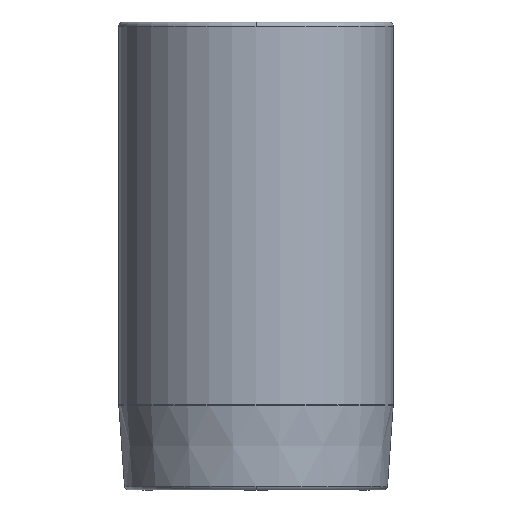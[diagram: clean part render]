
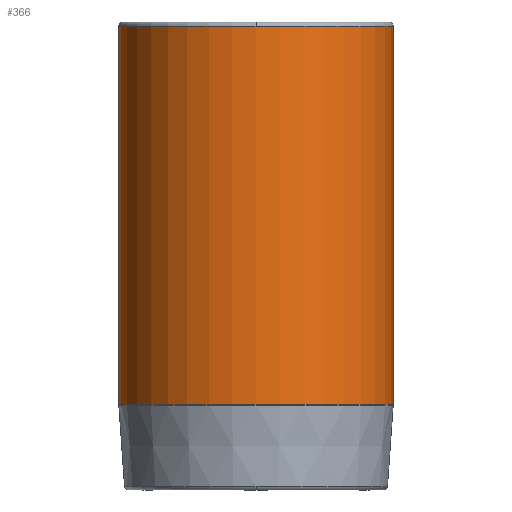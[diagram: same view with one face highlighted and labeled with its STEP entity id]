
A CAD part, front view. The second image highlights one B-rep face of the part: STEP entity #366.
In plain terms, the highlighted cylindrical face has radius 16.125 mm (diameter 32.25 mm), a partial arc.
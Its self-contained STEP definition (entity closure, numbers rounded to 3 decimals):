
#271=CARTESIAN_POINT('',(0.0,-16.125,27.5));
#272=VERTEX_POINT('',#271);
#298=CARTESIAN_POINT('',(-16.125,0.,27.5));
#299=VERTEX_POINT('',#298);
#307=CARTESIAN_POINT('',(0.0,0.,27.5));
#308=DIRECTION('',(0.0,0.0,1.0));
#309=DIRECTION('',(1.0,0.0,0.0));
#310=AXIS2_PLACEMENT_3D('',#307,#308,#309);
#311=CIRCLE('',#310,16.125);
#312=EDGE_CURVE('',#299,#272,#311,.T.);
#317=CARTESIAN_POINT('',(0.0,0.,5.267));
#318=DIRECTION('',(0.0,0.,1.0));
#319=DIRECTION('',(1.0,0.0,0.0));
#320=AXIS2_PLACEMENT_3D('',#317,#318,#319);
#321=CYLINDRICAL_SURFACE('',#320,16.125);
#322=CARTESIAN_POINT('',(16.125,0.,27.5));
#323=VERTEX_POINT('',#322);
#324=CARTESIAN_POINT('',(16.125,0.,-16.965));
#325=VERTEX_POINT('',#324);
#326=CARTESIAN_POINT('',(16.125,0.,27.5));
#327=DIRECTION('',(0.0,0.0,-1.0));
#328=VECTOR('',#327,44.465);
#329=LINE('',#326,#328);
#330=EDGE_CURVE('',#323,#325,#329,.T.);
#331=ORIENTED_EDGE('',*,*,#330,.F.);
#332=CARTESIAN_POINT('',(0.0,0.,27.5));
#333=DIRECTION('',(0.0,0.0,1.0));
#334=DIRECTION('',(1.0,0.0,0.0));
#335=AXIS2_PLACEMENT_3D('',#332,#333,#334);
#336=CIRCLE('',#335,16.125);
#337=EDGE_CURVE('',#272,#323,#336,.T.);
#338=ORIENTED_EDGE('',*,*,#337,.F.);
#339=ORIENTED_EDGE('',*,*,#312,.F.);
#340=CARTESIAN_POINT('',(-16.125,0.,-16.965));
#341=VERTEX_POINT('',#340);
#342=CARTESIAN_POINT('',(-16.125,0.,27.5));
#343=DIRECTION('',(0.0,0.0,-1.0));
#344=VECTOR('',#343,44.465);
#345=LINE('',#342,#344);
#346=EDGE_CURVE('',#299,#341,#345,.T.);
#347=ORIENTED_EDGE('',*,*,#346,.T.);
#348=CARTESIAN_POINT('',(0.0,-16.125,-16.965));
#349=VERTEX_POINT('',#348);
#350=CARTESIAN_POINT('',(0.0,0.,-16.965));
#351=DIRECTION('',(0.0,0.0,1.0));
#352=DIRECTION('',(1.0,0.0,0.0));
#353=AXIS2_PLACEMENT_3D('',#350,#351,#352);
#354=CIRCLE('',#353,16.125);
#355=EDGE_CURVE('',#341,#349,#354,.T.);
#356=ORIENTED_EDGE('',*,*,#355,.T.);
#357=CARTESIAN_POINT('',(0.0,0.,-16.965));
#358=DIRECTION('',(0.0,0.0,1.0));
#359=DIRECTION('',(1.0,0.0,0.0));
#360=AXIS2_PLACEMENT_3D('',#357,#358,#359);
#361=CIRCLE('',#360,16.125);
#362=EDGE_CURVE('',#349,#325,#361,.T.);
#363=ORIENTED_EDGE('',*,*,#362,.T.);
#364=EDGE_LOOP('',(#331,#338,#339,#347,#356,#363));
#365=FACE_OUTER_BOUND('',#364,.T.);
#366=ADVANCED_FACE('',(#365),#321,.T.);
